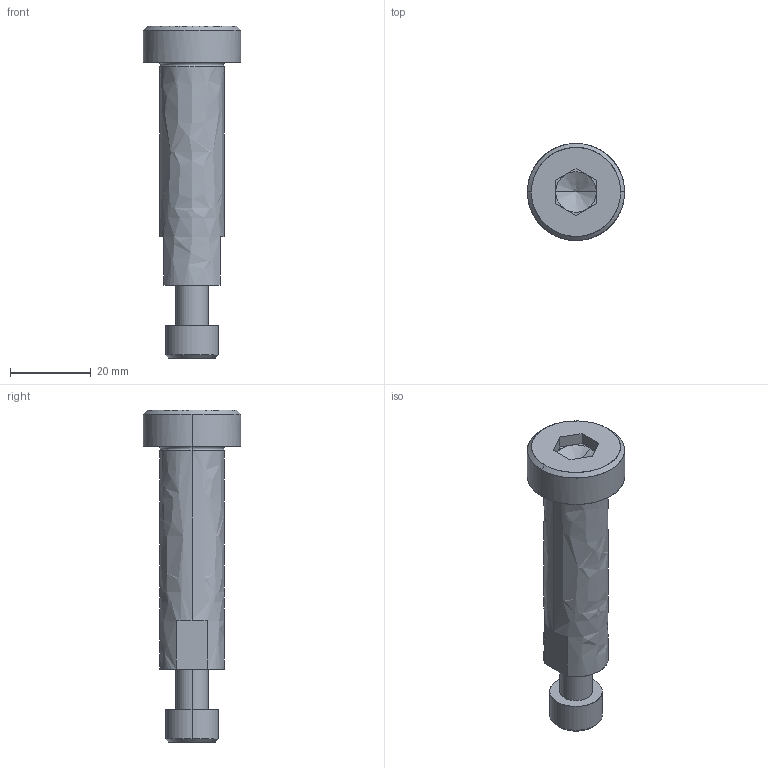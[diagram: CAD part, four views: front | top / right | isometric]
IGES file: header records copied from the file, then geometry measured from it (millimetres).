
Global section: file name: E:\UnigraphicsGraphicData\MISUMI_PRESS-PARTS\IGES\3d_sbt16-55_05068_r00.igs; native system: NX V5.0; preprocessor: UGS NX IGES V5.0; author: MISUMI; date: 20110105.162438; units: millimetre
Bounding box: 24 x 24 x 82 mm (x, y, z)
Surface area: 6361.4 mm2 (no closed solid volume)
Topology: 0 solids, 0 shells, 56 faces, 310 edges, 306 vertices
Faces by surface type: bspline 56
